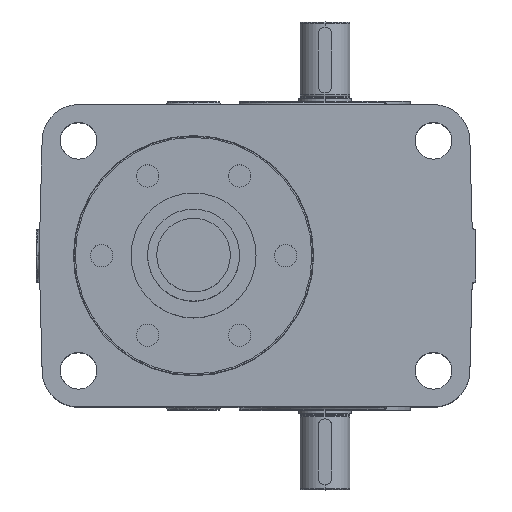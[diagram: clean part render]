
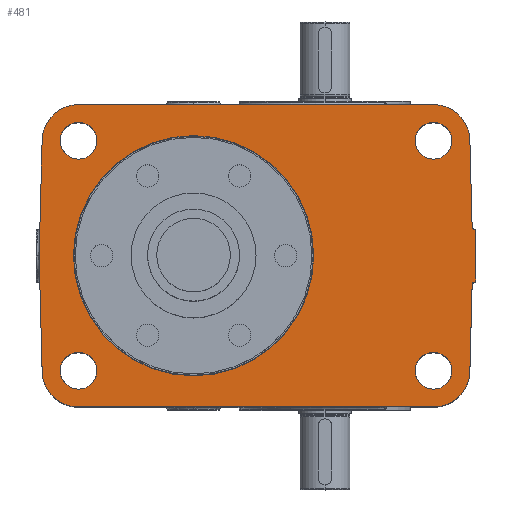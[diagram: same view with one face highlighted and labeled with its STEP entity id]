
A CAD part, top view. The second image highlights one B-rep face of the part: STEP entity #481.
In plain terms, the highlighted planar face has unit normal (0, 0, 1).
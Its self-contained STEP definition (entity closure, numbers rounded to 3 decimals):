
#481=ADVANCED_FACE('',(#1471,#1472,#1473,#1474,#1475,#1476),#1477,.T.);
#1471=FACE_OUTER_BOUND('',#4621,.T.);
#1472=FACE_BOUND('',#4622,.T.);
#1473=FACE_BOUND('',#4623,.T.);
#1474=FACE_BOUND('',#4624,.T.);
#1475=FACE_BOUND('',#4625,.T.);
#1476=FACE_BOUND('',#4626,.T.);
#1477=PLANE('',#4627);
#4621=EDGE_LOOP('',(#8425,#8426,#8427,#8428,#8429,#8430,#8431,#8432,#8433,#8434,#8435,#8436,#8437,#8438,#8439));
#4622=EDGE_LOOP('',(#8440,#8441));
#4623=EDGE_LOOP('',(#8442,#8443));
#4624=EDGE_LOOP('',(#8444,#8445));
#4625=EDGE_LOOP('',(#8446,#8447));
#4626=EDGE_LOOP('',(#8448,#8449));
#4627=AXIS2_PLACEMENT_3D('',#8450,#8451,#8452);
#8425=ORIENTED_EDGE('',*,*,#10493,.T.);
#8426=ORIENTED_EDGE('',*,*,#10495,.T.);
#8427=ORIENTED_EDGE('',*,*,#10640,.T.);
#8428=ORIENTED_EDGE('',*,*,#10774,.F.);
#8429=ORIENTED_EDGE('',*,*,#10739,.T.);
#8430=ORIENTED_EDGE('',*,*,#10775,.T.);
#8431=ORIENTED_EDGE('',*,*,#10776,.T.);
#8432=ORIENTED_EDGE('',*,*,#10777,.F.);
#8433=ORIENTED_EDGE('',*,*,#10778,.F.);
#8434=ORIENTED_EDGE('',*,*,#10772,.T.);
#8435=ORIENTED_EDGE('',*,*,#10489,.T.);
#8436=ORIENTED_EDGE('',*,*,#10490,.T.);
#8437=ORIENTED_EDGE('',*,*,#10324,.T.);
#8438=ORIENTED_EDGE('',*,*,#10491,.T.);
#8439=ORIENTED_EDGE('',*,*,#10326,.T.);
#8440=ORIENTED_EDGE('',*,*,#10497,.T.);
#8441=ORIENTED_EDGE('',*,*,#9872,.T.);
#8442=ORIENTED_EDGE('',*,*,#9877,.T.);
#8443=ORIENTED_EDGE('',*,*,#10486,.T.);
#8444=ORIENTED_EDGE('',*,*,#9881,.T.);
#8445=ORIENTED_EDGE('',*,*,#10485,.T.);
#8446=ORIENTED_EDGE('',*,*,#9885,.T.);
#8447=ORIENTED_EDGE('',*,*,#10484,.T.);
#8448=ORIENTED_EDGE('',*,*,#9889,.T.);
#8449=ORIENTED_EDGE('',*,*,#10483,.T.);
#8450=CARTESIAN_POINT('',(47.5,0.,230.0));
#8451=DIRECTION('',(0.0,0.0,1.0));
#8452=DIRECTION('',(1.0,0.0,0.0));
#9872=EDGE_CURVE('',#11547,#11545,#11548,.T.);
#9877=EDGE_CURVE('',#11551,#11555,#11557,.T.);
#9881=EDGE_CURVE('',#11559,#11563,#11565,.T.);
#9885=EDGE_CURVE('',#11567,#11571,#11573,.T.);
#9889=EDGE_CURVE('',#11575,#11579,#11581,.T.);
#10324=EDGE_CURVE('',#12321,#12319,#12322,.T.);
#10326=EDGE_CURVE('',#12324,#12325,#12326,.T.);
#10483=EDGE_CURVE('',#11579,#11575,#12582,.T.);
#10484=EDGE_CURVE('',#11571,#11567,#12583,.T.);
#10485=EDGE_CURVE('',#11563,#11559,#12584,.T.);
#10486=EDGE_CURVE('',#11555,#11551,#12585,.T.);
#10489=EDGE_CURVE('',#12586,#12588,#12590,.T.);
#10490=EDGE_CURVE('',#12588,#12321,#12591,.T.);
#10491=EDGE_CURVE('',#12319,#12324,#12592,.T.);
#10493=EDGE_CURVE('',#12325,#12593,#12595,.T.);
#10495=EDGE_CURVE('',#12593,#12596,#12598,.T.);
#10497=EDGE_CURVE('',#11545,#11547,#12600,.T.);
#10640=EDGE_CURVE('',#12596,#12833,#12834,.T.);
#10739=EDGE_CURVE('',#12981,#12982,#12983,.T.);
#10772=EDGE_CURVE('',#13028,#12586,#13029,.T.);
#10774=EDGE_CURVE('',#12981,#12833,#13031,.T.);
#10775=EDGE_CURVE('',#12982,#13032,#13033,.T.);
#10776=EDGE_CURVE('',#13032,#13034,#13035,.T.);
#10777=EDGE_CURVE('',#13036,#13034,#13037,.T.);
#10778=EDGE_CURVE('',#13028,#13036,#13038,.T.);
#11545=VERTEX_POINT('',#17813);
#11547=VERTEX_POINT('',#17816);
#11548=CIRCLE('',#17817,91.402);
#11551=VERTEX_POINT('',#17821);
#11555=VERTEX_POINT('',#18042);
#11557=CIRCLE('',#18045,14.0);
#11559=VERTEX_POINT('',#18047);
#11563=VERTEX_POINT('',#18268);
#11565=CIRCLE('',#18271,14.0);
#11567=VERTEX_POINT('',#18273);
#11571=VERTEX_POINT('',#18494);
#11573=CIRCLE('',#18497,14.0);
#11575=VERTEX_POINT('',#18499);
#11579=VERTEX_POINT('',#18720);
#11581=CIRCLE('',#18723,14.0);
#12319=VERTEX_POINT('',#27634);
#12321=VERTEX_POINT('',#27637);
#12322=LINE('',#27638,#27639);
#12324=VERTEX_POINT('',#27642);
#12325=VERTEX_POINT('',#27643);
#12326=LINE('',#27644,#27645);
#12582=CIRCLE('',#29741,14.0);
#12583=CIRCLE('',#29742,14.0);
#12584=CIRCLE('',#29743,14.0);
#12585=CIRCLE('',#29744,14.0);
#12586=VERTEX_POINT('',#29745);
#12588=VERTEX_POINT('',#29748);
#12590=LINE('',#29751,#29752);
#12591=CIRCLE('',#29753,2.0);
#12592=LINE('',#29754,#29755);
#12593=VERTEX_POINT('',#29756);
#12595=CIRCLE('',#29759,2.0);
#12596=VERTEX_POINT('',#29760);
#12598=LINE('',#29763,#29764);
#12600=CIRCLE('',#29766,91.402);
#12833=VERTEX_POINT('',#31479);
#12834=CIRCLE('',#31480,27.5);
#12981=VERTEX_POINT('',#31861);
#12982=VERTEX_POINT('',#31862);
#12983=CIRCLE('',#31863,27.5);
#13028=VERTEX_POINT('',#32332);
#13029=CIRCLE('',#32333,27.5);
#13031=LINE('',#32336,#32337);
#13032=VERTEX_POINT('',#32338);
#13033=LINE('',#32339,#32340);
#13034=VERTEX_POINT('',#32341);
#13035=LINE('',#32342,#32343);
#13036=VERTEX_POINT('',#32344);
#13037=CIRCLE('',#32345,27.5);
#13038=LINE('',#32346,#32347);
#17813=CARTESIAN_POINT('',(91.402,0.0,230.0));
#17816=CARTESIAN_POINT('',(-91.402,0.,230.0));
#17817=AXIS2_PLACEMENT_3D('',#33999,#34000,#34001);
#17821=CARTESIAN_POINT('',(-101.5,-87.5,230.0));
#18042=CARTESIAN_POINT('',(-73.5,-87.5,230.0));
#18045=AXIS2_PLACEMENT_3D('',#34005,#34006,#34007);
#18047=CARTESIAN_POINT('',(168.5,-87.5,230.0));
#18268=CARTESIAN_POINT('',(196.5,-87.5,230.0));
#18271=AXIS2_PLACEMENT_3D('',#34010,#34011,#34012);
#18273=CARTESIAN_POINT('',(168.5,87.5,230.0));
#18494=CARTESIAN_POINT('',(196.5,87.5,230.0));
#18497=AXIS2_PLACEMENT_3D('',#34015,#34016,#34017);
#18499=CARTESIAN_POINT('',(-101.5,87.5,230.0));
#18720=CARTESIAN_POINT('',(-73.5,87.5,230.0));
#18723=AXIS2_PLACEMENT_3D('',#34020,#34021,#34022);
#27634=CARTESIAN_POINT('',(214.5,-20.0,230.0));
#27637=CARTESIAN_POINT('',(213.927,-20.0,230.0));
#27638=CARTESIAN_POINT('',(214.5,-20.0,230.0));
#27639=VECTOR('',#34340,1000.0);
#27642=CARTESIAN_POINT('',(214.5,20.0,230.0));
#27643=CARTESIAN_POINT('',(213.927,20.0,230.0));
#27644=CARTESIAN_POINT('',(214.5,20.0,230.0));
#27645=VECTOR('',#34342,1000.0);
#29741=AXIS2_PLACEMENT_3D('',#34440,#34441,#34442);
#29742=AXIS2_PLACEMENT_3D('',#34443,#34444,#34445);
#29743=AXIS2_PLACEMENT_3D('',#34446,#34447,#34448);
#29744=AXIS2_PLACEMENT_3D('',#34449,#34450,#34451);
#29745=CARTESIAN_POINT('',(210.199,-88.217,230.0));
#29748=CARTESIAN_POINT('',(211.927,-21.948,230.0));
#29751=CARTESIAN_POINT('',(210.199,-88.217,230.0));
#29752=VECTOR('',#34454,1000.0);
#29753=AXIS2_PLACEMENT_3D('',#34455,#34456,#34457);
#29754=CARTESIAN_POINT('',(214.5,0.,230.0));
#29755=VECTOR('',#34458,1000.0);
#29756=CARTESIAN_POINT('',(211.927,21.948,230.0));
#29759=AXIS2_PLACEMENT_3D('',#34460,#34461,#34462);
#29760=CARTESIAN_POINT('',(210.199,88.217,230.0));
#29763=CARTESIAN_POINT('',(211.927,21.948,230.0));
#29764=VECTOR('',#34464,1000.0);
#29766=AXIS2_PLACEMENT_3D('',#34468,#34469,#34470);
#31479=CARTESIAN_POINT('',(182.708,115.0,230.0));
#31480=AXIS2_PLACEMENT_3D('',#34568,#34569,#34570);
#31861=CARTESIAN_POINT('',(-87.708,115.0,230.0));
#31862=CARTESIAN_POINT('',(-115.199,88.217,230.0));
#31863=AXIS2_PLACEMENT_3D('',#34640,#34641,#34642);
#32332=CARTESIAN_POINT('',(182.708,-115.0,230.0));
#32333=AXIS2_PLACEMENT_3D('',#34660,#34661,#34662);
#32336=CARTESIAN_POINT('',(-117.5,115.0,230.0));
#32337=VECTOR('',#34664,1000.0);
#32338=CARTESIAN_POINT('',(-117.5,0.,230.0));
#32339=CARTESIAN_POINT('',(-114.5,115.0,230.0));
#32340=VECTOR('',#34665,1000.0);
#32341=CARTESIAN_POINT('',(-115.199,-88.217,230.0));
#32342=CARTESIAN_POINT('',(-117.5,0.,230.0));
#32343=VECTOR('',#34666,1000.0);
#32344=CARTESIAN_POINT('',(-87.708,-115.0,230.0));
#32345=AXIS2_PLACEMENT_3D('',#34667,#34668,#34669);
#32346=CARTESIAN_POINT('',(212.5,-115.0,230.0));
#32347=VECTOR('',#34670,1000.0);
#33999=CARTESIAN_POINT('',(0.0,0.0,230.0));
#34000=DIRECTION('',(0.0,0.0,-1.0));
#34001=DIRECTION('',(1.0,0.0,0.0));
#34005=CARTESIAN_POINT('',(-87.5,-87.5,230.0));
#34006=DIRECTION('',(0.0,0.0,-1.0));
#34007=DIRECTION('',(-1.0,0.0,0.0));
#34010=CARTESIAN_POINT('',(182.5,-87.5,230.0));
#34011=DIRECTION('',(0.0,0.0,-1.0));
#34012=DIRECTION('',(-1.0,0.0,0.0));
#34015=CARTESIAN_POINT('',(182.5,87.5,230.0));
#34016=DIRECTION('',(0.0,0.0,-1.0));
#34017=DIRECTION('',(-1.0,0.0,0.0));
#34020=CARTESIAN_POINT('',(-87.5,87.5,230.0));
#34021=DIRECTION('',(0.0,0.0,-1.0));
#34022=DIRECTION('',(-1.0,0.0,0.0));
#34340=DIRECTION('',(1.0,-0.0,0.0));
#34342=DIRECTION('',(-1.0,-0.0,-0.0));
#34440=CARTESIAN_POINT('',(-87.5,87.5,230.0));
#34441=DIRECTION('',(0.0,0.0,-1.0));
#34442=DIRECTION('',(-1.0,0.0,0.0));
#34443=CARTESIAN_POINT('',(182.5,87.5,230.0));
#34444=DIRECTION('',(0.0,0.0,-1.0));
#34445=DIRECTION('',(-1.0,0.0,0.0));
#34446=CARTESIAN_POINT('',(182.5,-87.5,230.0));
#34447=DIRECTION('',(0.0,0.0,-1.0));
#34448=DIRECTION('',(-1.0,0.0,0.0));
#34449=CARTESIAN_POINT('',(-87.5,-87.5,230.0));
#34450=DIRECTION('',(0.0,0.0,-1.0));
#34451=DIRECTION('',(-1.0,0.0,0.0));
#34454=DIRECTION('',(0.026,1.,0.0));
#34455=CARTESIAN_POINT('',(213.927,-22.0,230.0));
#34456=DIRECTION('',(0.,0.0,-1.0));
#34457=DIRECTION('',(0.0,1.0,0.0));
#34458=DIRECTION('',(-0.0,1.0,0.0));
#34460=CARTESIAN_POINT('',(213.927,22.0,230.0));
#34461=DIRECTION('',(0.,-0.0,-1.0));
#34462=DIRECTION('',(0.0,-1.0,0.0));
#34464=DIRECTION('',(-0.026,1.,0.0));
#34468=CARTESIAN_POINT('',(0.0,0.0,230.0));
#34469=DIRECTION('',(0.0,0.0,-1.0));
#34470=DIRECTION('',(1.0,0.0,0.0));
#34568=CARTESIAN_POINT('',(182.708,87.5,230.0));
#34569=DIRECTION('',(0.0,0.0,1.0));
#34570=DIRECTION('',(-1.0,0.0,0.0));
#34640=CARTESIAN_POINT('',(-87.708,87.5,230.0));
#34641=DIRECTION('',(0.0,0.0,1.0));
#34642=DIRECTION('',(1.0,0.0,0.0));
#34660=CARTESIAN_POINT('',(182.708,-87.5,230.0));
#34661=DIRECTION('',(0.0,0.0,1.0));
#34662=DIRECTION('',(1.0,0.0,0.0));
#34664=DIRECTION('',(1.0,0.,-0.0));
#34665=DIRECTION('',(-0.026,-1.,-0.0));
#34666=DIRECTION('',(0.026,-1.,-0.0));
#34667=CARTESIAN_POINT('',(-87.708,-87.5,230.0));
#34668=DIRECTION('',(0.0,0.0,-1.0));
#34669=DIRECTION('',(-1.0,0.0,0.0));
#34670=DIRECTION('',(-1.0,-0.0,-0.0));
